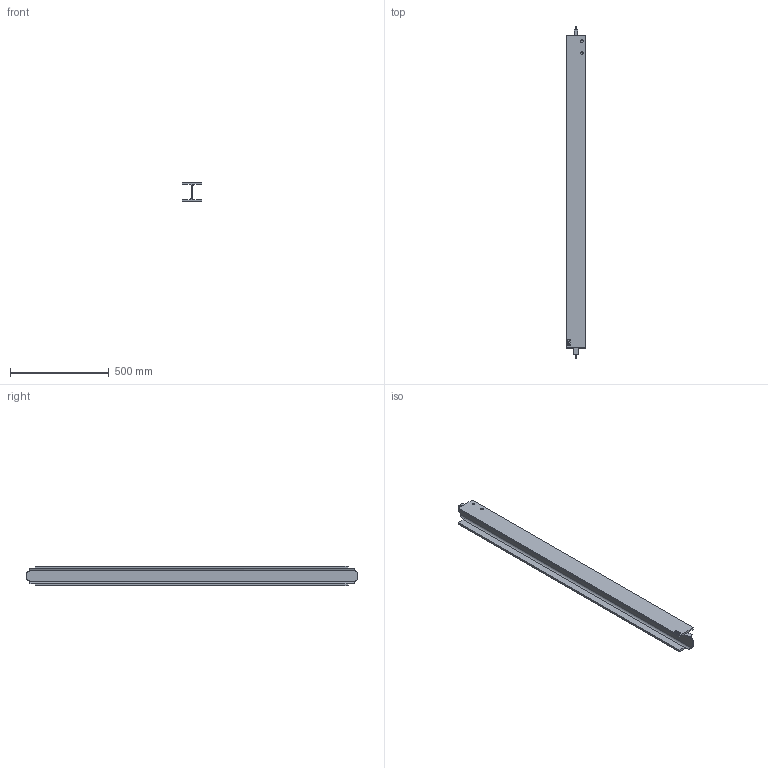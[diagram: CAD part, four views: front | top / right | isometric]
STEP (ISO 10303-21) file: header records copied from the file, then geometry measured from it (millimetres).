
FILE_DESCRIPTION (( 'STEP AP214' ), '1' );
FILE_NAME ('CCJ029-REP.010 - POUTRE B4-C4.STEP', '2025-02-13T07:39:57', ( '' ), ( '' ), 'SwSTEP 2.0', 'SolidWorks 2021', '' );
FILE_SCHEMA (( 'AUTOMOTIVE_DESIGN' ));
Length unit declared in the file: millimetre
Products named in the file (1): CCJ029-REP.010 - POUTRE B4-C4
Bounding box: 100 x 1678.5 x 100 mm (x, y, z)
Volume: 4155936.9 mm3; surface area: 918496.5 mm2
Topology: 1 solids, 1 shells, 63 faces, 168 edges, 112 vertices
Faces by surface type: plane 33, bspline 18, cylinder 12
Entity records: 3584 total; most frequent: CARTESIAN_POINT 2082, ORIENTED_EDGE 336, DIRECTION 240, EDGE_CURVE 168, VERTEX_POINT 112, VECTOR 100, LINE 100, EDGE_LOOP 72
